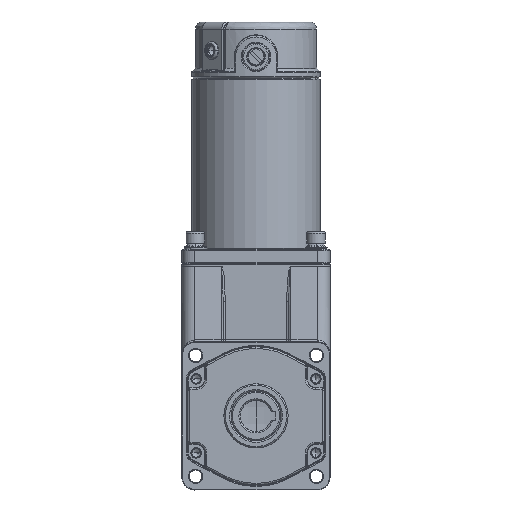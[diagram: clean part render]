
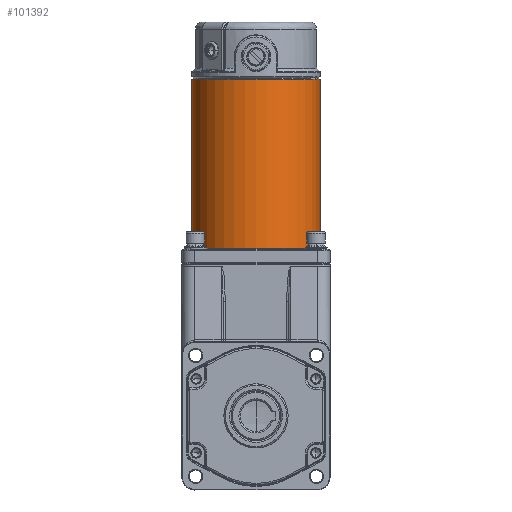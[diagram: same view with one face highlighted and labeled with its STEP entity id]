
A CAD part, front view. The second image highlights one B-rep face of the part: STEP entity #101392.
In plain terms, the highlighted cylindrical face has radius 45 mm (diameter 90 mm), a partial arc.
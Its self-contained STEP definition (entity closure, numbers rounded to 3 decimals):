
#1732 = VERTEX_POINT ( 'NONE', #31522 ) ;
#3342 = VERTEX_POINT ( 'NONE', #94184 ) ;
#12961 = DIRECTION ( 'NONE',  ( 0., 0., 1. ) ) ;
#15088 = VECTOR ( 'NONE', #126486, 1000. ) ;
#15611 = EDGE_CURVE ( 'NONE', #19219, #83042, #123132, .T. ) ;
#16747 = CARTESIAN_POINT ( 'NONE',  ( -7.759, 0., -45. ) ) ;
#19219 = VERTEX_POINT ( 'NONE', #36085 ) ;
#19377 = EDGE_CURVE ( 'NONE', #83042, #3342, #75904, .T. ) ;
#21582 = VERTEX_POINT ( 'NONE', #33191 ) ;
#21979 = CARTESIAN_POINT ( 'NONE',  ( -7.759, 119.172, 0. ) ) ;
#28585 = AXIS2_PLACEMENT_3D ( 'NONE', #93872, #94300, #36042 ) ;
#28839 = CYLINDRICAL_SURFACE ( 'NONE', #28585, 45. ) ;
#31522 = CARTESIAN_POINT ( 'NONE',  ( -7.759, 0.828, 45. ) ) ;
#33191 = CARTESIAN_POINT ( 'NONE',  ( 37.241, 0.828, 0. ) ) ;
#33770 = EDGE_CURVE ( 'NONE', #1732, #3342, #85176, .T. ) ;
#36042 = DIRECTION ( 'NONE',  ( 0., 0., 1. ) ) ;
#36085 = CARTESIAN_POINT ( 'NONE',  ( -7.759, 0.828, -45. ) ) ;
#37171 = DIRECTION ( 'NONE',  ( 0., 0., 1. ) ) ;
#39352 = DIRECTION ( 'NONE',  ( 0., 1., 0. ) ) ;
#42017 = DIRECTION ( 'NONE',  ( 0., -1., 0. ) ) ;
#45314 = ORIENTED_EDGE ( 'NONE', *, *, #33770, .F. ) ;
#47060 = ORIENTED_EDGE ( 'NONE', *, *, #19377, .T. ) ;
#48841 = ORIENTED_EDGE ( 'NONE', *, *, #85793, .T. ) ;
#50015 = CIRCLE ( 'NONE', #71996, 45. ) ;
#57328 = ORIENTED_EDGE ( 'NONE', *, *, #100072, .T. ) ;
#71996 = AXIS2_PLACEMENT_3D ( 'NONE', #91774, #111352, #12961 ) ;
#72604 = EDGE_LOOP ( 'NONE', ( #57328, #115921, #47060, #45314, #48841 ) ) ;
#73516 = AXIS2_PLACEMENT_3D ( 'NONE', #86774, #39352, #37171 ) ;
#75904 = CIRCLE ( 'NONE', #121195, 45. ) ;
#76898 = CARTESIAN_POINT ( 'NONE',  ( -7.759, 119.172, -45. ) ) ;
#83042 = VERTEX_POINT ( 'NONE', #76898 ) ;
#85176 = LINE ( 'NONE', #95102, #15088 ) ;
#85793 = EDGE_CURVE ( 'NONE', #1732, #21582, #50015, .T. ) ;
#86448 = DIRECTION ( 'NONE',  ( 0., 1., 0. ) ) ;
#86774 = CARTESIAN_POINT ( 'NONE',  ( -7.759, 0.828, 0. ) ) ;
#91774 = CARTESIAN_POINT ( 'NONE',  ( -7.759, 0.828, 0. ) ) ;
#93872 = CARTESIAN_POINT ( 'NONE',  ( -7.759, 0., 0. ) ) ;
#94184 = CARTESIAN_POINT ( 'NONE',  ( -7.759, 119.172, 45. ) ) ;
#94300 = DIRECTION ( 'NONE',  ( 0., 1., 0. ) ) ;
#95102 = CARTESIAN_POINT ( 'NONE',  ( -7.759, 0., 45. ) ) ;
#96646 = VECTOR ( 'NONE', #86448, 1000. ) ;
#97511 = CIRCLE ( 'NONE', #73516, 45. ) ;
#100072 = EDGE_CURVE ( 'NONE', #21582, #19219, #97511, .T. ) ;
#100806 = DIRECTION ( 'NONE',  ( 0., 0., 1. ) ) ;
#101392 = ADVANCED_FACE ( 'NONE', ( #117630 ), #28839, .T. ) ;
#111352 = DIRECTION ( 'NONE',  ( 0., 1., 0. ) ) ;
#115921 = ORIENTED_EDGE ( 'NONE', *, *, #15611, .T. ) ;
#117630 = FACE_OUTER_BOUND ( 'NONE', #72604, .T. ) ;
#121195 = AXIS2_PLACEMENT_3D ( 'NONE', #21979, #42017, #100806 ) ;
#123132 = LINE ( 'NONE', #16747, #96646 ) ;
#126486 = DIRECTION ( 'NONE',  ( 0., 1., 0. ) ) ;
